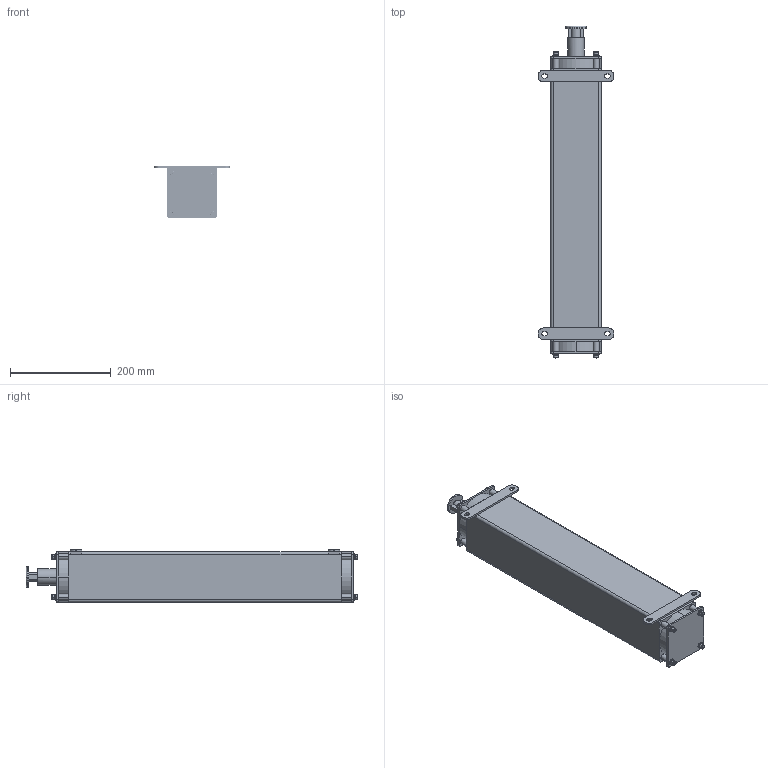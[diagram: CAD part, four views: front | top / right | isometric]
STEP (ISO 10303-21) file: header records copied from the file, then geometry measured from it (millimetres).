
FILE_DESCRIPTION((''),'2;1');
FILE_NAME('EFB-EX_ASM','2021-08-19T10:25:44',('18720616900'),(''),'CREO PARAMETRIC BY PTC INC, 2019010','CREO PARAMETRIC BY PTC INC, 2019010','');
FILE_SCHEMA(('CONFIG_CONTROL_DESIGN'));
Length unit declared in the file: millimetre
Products named in the file (6): EFB-EX-115; M6-50-0001; M6-1--00; M6-1-00; 0001_ASM; EFB-EX_ASM
Assembly tree (12 placements, depth 3):
  EFB-EX_ASM
    EFB-EX-115
    0001_ASM  x8
      M6-50-0001
      M6-1--00
      M6-1-00
Bounding box: 150 x 659.5 x 104 mm (x, y, z)
Volume: 809570.4 mm3; surface area: 507054 mm2
Topology: 25 solids, 33 shells, 1251 faces, 3238 edges, 2074 vertices
Faces by surface type: cone 488, plane 265, bspline 264, cylinder 184, torus 50
Entity records: 19649 total; most frequent: CARTESIAN_POINT 10843, ORIENTED_EDGE 1810, DIRECTION 1750, EDGE_CURVE 921, AXIS2_PLACEMENT_3D 657, VERTEX_POINT 597, VECTOR 436, LINE 436
